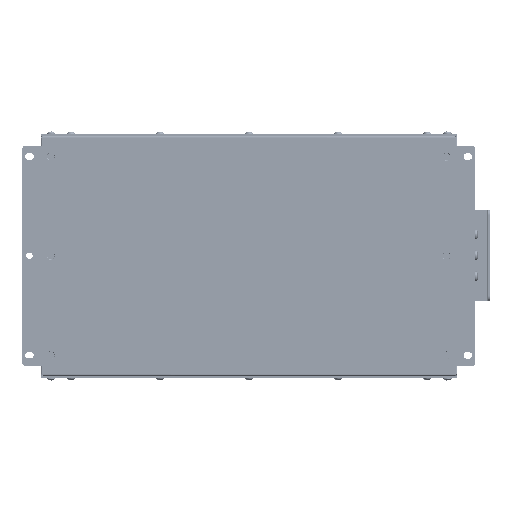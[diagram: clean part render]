
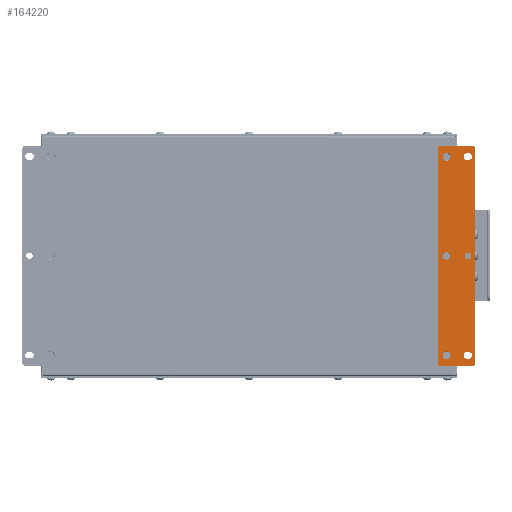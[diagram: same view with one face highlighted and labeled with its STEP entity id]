
A CAD part, front view. The second image highlights one B-rep face of the part: STEP entity #164220.
In plain terms, the highlighted planar face has unit normal (0, -1, 0).
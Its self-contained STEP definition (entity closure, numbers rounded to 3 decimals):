
#5640=FACE_BOUND('',#53948,.T.);
#5641=FACE_BOUND('',#53949,.T.);
#5642=FACE_BOUND('',#53950,.T.);
#5643=FACE_BOUND('',#53951,.T.);
#5644=FACE_BOUND('',#53952,.T.);
#5645=FACE_BOUND('',#53953,.T.);
#6941=PLANE('',#173839);
#12722=LINE('',#230154,#28016);
#12725=LINE('',#230162,#28019);
#12729=LINE('',#230172,#28023);
#12732=LINE('',#230180,#28026);
#12737=LINE('',#230196,#28031);
#12740=LINE('',#230204,#28034);
#12743=LINE('',#230212,#28037);
#12746=LINE('',#230219,#28040);
#28016=VECTOR('',#188682,10.);
#28019=VECTOR('',#188691,10.);
#28023=VECTOR('',#188703,10.);
#28026=VECTOR('',#188712,10.);
#28031=VECTOR('',#188731,10.);
#28034=VECTOR('',#188740,10.);
#28037=VECTOR('',#188749,10.);
#28040=VECTOR('',#188758,10.);
#44896=FACE_OUTER_BOUND('',#53947,.T.);
#53947=EDGE_LOOP('',(#110290,#110291,#110292,#110293,#110294,#110295,#110296,
#110297));
#53948=EDGE_LOOP('',(#110298));
#53949=EDGE_LOOP('',(#110299));
#53950=EDGE_LOOP('',(#110300));
#53951=EDGE_LOOP('',(#110301));
#53952=EDGE_LOOP('',(#110302,#110303,#110304,#110305));
#53953=EDGE_LOOP('',(#110306,#110307,#110308,#110309));
#63902=CIRCLE('',#173759,4.);
#63905=CIRCLE('',#173763,4.);
#63908=CIRCLE('',#173767,4.);
#63944=CIRCLE('',#173814,3.3);
#63945=CIRCLE('',#173817,3.3);
#63946=CIRCLE('',#173821,3.3);
#63947=CIRCLE('',#173824,3.3);
#63948=CIRCLE('',#173826,3.3);
#63949=CIRCLE('',#173828,4.);
#63950=CIRCLE('',#173831,4.);
#63951=CIRCLE('',#173834,4.);
#63952=CIRCLE('',#173837,4.);
#69016=VERTEX_POINT('',#229962);
#69019=VERTEX_POINT('',#229970);
#69022=VERTEX_POINT('',#229978);
#69098=VERTEX_POINT('',#230151);
#69099=VERTEX_POINT('',#230153);
#69100=VERTEX_POINT('',#230157);
#69101=VERTEX_POINT('',#230161);
#69102=VERTEX_POINT('',#230169);
#69103=VERTEX_POINT('',#230171);
#69104=VERTEX_POINT('',#230175);
#69105=VERTEX_POINT('',#230179);
#69106=VERTEX_POINT('',#230185);
#69107=VERTEX_POINT('',#230189);
#69108=VERTEX_POINT('',#230191);
#69109=VERTEX_POINT('',#230195);
#69110=VERTEX_POINT('',#230199);
#69111=VERTEX_POINT('',#230203);
#69112=VERTEX_POINT('',#230207);
#69113=VERTEX_POINT('',#230211);
#69114=VERTEX_POINT('',#230215);
#84948=EDGE_CURVE('',#69016,#69016,#63902,.T.);
#84952=EDGE_CURVE('',#69019,#69019,#63905,.T.);
#84956=EDGE_CURVE('',#69022,#69022,#63908,.T.);
#85044=EDGE_CURVE('',#69099,#69098,#12722,.T.);
#85046=EDGE_CURVE('',#69100,#69099,#63944,.T.);
#85048=EDGE_CURVE('',#69101,#69100,#12725,.T.);
#85050=EDGE_CURVE('',#69098,#69101,#63945,.T.);
#85053=EDGE_CURVE('',#69103,#69102,#12729,.T.);
#85055=EDGE_CURVE('',#69104,#69103,#63946,.T.);
#85057=EDGE_CURVE('',#69105,#69104,#12732,.T.);
#85059=EDGE_CURVE('',#69102,#69105,#63947,.T.);
#85060=EDGE_CURVE('',#69106,#69106,#63948,.T.);
#85063=EDGE_CURVE('',#69108,#69107,#63949,.T.);
#85065=EDGE_CURVE('',#69109,#69108,#12737,.T.);
#85067=EDGE_CURVE('',#69110,#69109,#63950,.T.);
#85069=EDGE_CURVE('',#69111,#69110,#12740,.T.);
#85071=EDGE_CURVE('',#69112,#69111,#63951,.T.);
#85073=EDGE_CURVE('',#69113,#69112,#12743,.T.);
#85075=EDGE_CURVE('',#69114,#69113,#63952,.T.);
#85077=EDGE_CURVE('',#69107,#69114,#12746,.T.);
#110290=ORIENTED_EDGE('',*,*,#85077,.T.);
#110291=ORIENTED_EDGE('',*,*,#85075,.T.);
#110292=ORIENTED_EDGE('',*,*,#85073,.T.);
#110293=ORIENTED_EDGE('',*,*,#85071,.T.);
#110294=ORIENTED_EDGE('',*,*,#85069,.T.);
#110295=ORIENTED_EDGE('',*,*,#85067,.T.);
#110296=ORIENTED_EDGE('',*,*,#85065,.T.);
#110297=ORIENTED_EDGE('',*,*,#85063,.T.);
#110298=ORIENTED_EDGE('',*,*,#84948,.T.);
#110299=ORIENTED_EDGE('',*,*,#84952,.T.);
#110300=ORIENTED_EDGE('',*,*,#84956,.T.);
#110301=ORIENTED_EDGE('',*,*,#85060,.T.);
#110302=ORIENTED_EDGE('',*,*,#85059,.T.);
#110303=ORIENTED_EDGE('',*,*,#85057,.T.);
#110304=ORIENTED_EDGE('',*,*,#85055,.T.);
#110305=ORIENTED_EDGE('',*,*,#85053,.T.);
#110306=ORIENTED_EDGE('',*,*,#85050,.T.);
#110307=ORIENTED_EDGE('',*,*,#85048,.T.);
#110308=ORIENTED_EDGE('',*,*,#85046,.T.);
#110309=ORIENTED_EDGE('',*,*,#85044,.T.);
#164220=ADVANCED_FACE('',(#44896,#5640,#5641,#5642,#5643,#5644,#5645),#6941,
 .T.);
#173759=AXIS2_PLACEMENT_3D('',#229963,#188520,#188521);
#173763=AXIS2_PLACEMENT_3D('',#229971,#188529,#188530);
#173767=AXIS2_PLACEMENT_3D('',#229979,#188538,#188539);
#173814=AXIS2_PLACEMENT_3D('',#230158,#188686,#188687);
#173817=AXIS2_PLACEMENT_3D('',#230165,#188695,#188696);
#173821=AXIS2_PLACEMENT_3D('',#230176,#188707,#188708);
#173824=AXIS2_PLACEMENT_3D('',#230183,#188716,#188717);
#173826=AXIS2_PLACEMENT_3D('',#230186,#188720,#188721);
#173828=AXIS2_PLACEMENT_3D('',#230192,#188726,#188727);
#173831=AXIS2_PLACEMENT_3D('',#230200,#188735,#188736);
#173834=AXIS2_PLACEMENT_3D('',#230208,#188744,#188745);
#173837=AXIS2_PLACEMENT_3D('',#230216,#188753,#188754);
#173839=AXIS2_PLACEMENT_3D('',#230220,#188759,#188760);
#188520=DIRECTION('center_axis',(0.,1.,0.));
#188521=DIRECTION('ref_axis',(0.,0.,
1.));
#188529=DIRECTION('center_axis',(0.,1.,0.));
#188530=DIRECTION('ref_axis',(0.,0.,
1.));
#188538=DIRECTION('center_axis',(0.,1.,0.));
#188539=DIRECTION('ref_axis',(0.,0.,
1.));
#188682=DIRECTION('',(-1.,0.,0.));
#188686=DIRECTION('center_axis',(0.,1.,0.));
#188687=DIRECTION('ref_axis',(0.,0.,
1.));
#188691=DIRECTION('',(1.,0.,0.));
#188695=DIRECTION('center_axis',(0.,1.,0.));
#188696=DIRECTION('ref_axis',(0.,0.,
-1.));
#188703=DIRECTION('',(-1.,0.,0.));
#188707=DIRECTION('center_axis',(0.,1.,0.));
#188708=DIRECTION('ref_axis',(0.,0.,
1.));
#188712=DIRECTION('',(1.,0.,0.));
#188716=DIRECTION('center_axis',(0.,1.,0.));
#188717=DIRECTION('ref_axis',(0.,0.,
-1.));
#188720=DIRECTION('center_axis',(0.,1.,0.));
#188721=DIRECTION('ref_axis',(0.,0.,
1.));
#188726=DIRECTION('center_axis',(0.,-1.,0.));
#188727=DIRECTION('ref_axis',(0.,0.,
-1.));
#188731=DIRECTION('',(1.,0.,0.));
#188735=DIRECTION('center_axis',(0.,-1.,0.));
#188736=DIRECTION('ref_axis',(-1.,0.,0.));
#188740=DIRECTION('',(0.,0.,-1.));
#188744=DIRECTION('center_axis',(0.,-1.,0.));
#188745=DIRECTION('ref_axis',(0.,0.,
1.));
#188749=DIRECTION('',(-1.,0.,0.));
#188753=DIRECTION('center_axis',(0.,-1.,0.));
#188754=DIRECTION('ref_axis',(1.,0.,0.));
#188758=DIRECTION('',(0.,0.,1.));
#188759=DIRECTION('center_axis',(0.,-1.,0.));
#188760=DIRECTION('ref_axis',(1.,0.,0.));
#229962=CARTESIAN_POINT('',(198.605,-71.961,95.973));
#229963=CARTESIAN_POINT('Origin',(198.605,-71.961,99.973));
#229970=CARTESIAN_POINT('',(198.605,-71.961,-4.027));
#229971=CARTESIAN_POINT('Origin',(198.605,-71.961,-0.027));
#229978=CARTESIAN_POINT('',(198.605,-71.961,-104.027));
#229979=CARTESIAN_POINT('Origin',(198.605,-71.961,-100.027));
#230151=CARTESIAN_POINT('',(219.105,-71.961,-103.327));
#230153=CARTESIAN_POINT('',(221.105,-71.961,-103.327));
#230154=CARTESIAN_POINT('',(221.105,-71.961,-103.327));
#230157=CARTESIAN_POINT('',(221.105,-71.961,-96.727));
#230158=CARTESIAN_POINT('Origin',(221.105,-71.961,-100.027));
#230161=CARTESIAN_POINT('',(219.105,-71.961,-96.727));
#230162=CARTESIAN_POINT('',(219.105,-71.961,-96.727));
#230165=CARTESIAN_POINT('Origin',(219.105,-71.961,-100.027));
#230169=CARTESIAN_POINT('',(219.105,-71.961,96.673));
#230171=CARTESIAN_POINT('',(221.105,-71.961,96.673));
#230172=CARTESIAN_POINT('',(221.105,-71.961,96.673));
#230175=CARTESIAN_POINT('',(221.105,-71.961,103.273));
#230176=CARTESIAN_POINT('Origin',(221.105,-71.961,99.973));
#230179=CARTESIAN_POINT('',(219.105,-71.961,103.273));
#230180=CARTESIAN_POINT('',(219.105,-71.961,103.273));
#230183=CARTESIAN_POINT('Origin',(219.105,-71.961,99.973));
#230185=CARTESIAN_POINT('',(220.105,-71.961,-3.327));
#230186=CARTESIAN_POINT('Origin',(220.105,-71.961,-0.027));
#230189=CARTESIAN_POINT('',(227.605,-71.961,-107.027));
#230191=CARTESIAN_POINT('',(223.605,-71.961,-111.027));
#230192=CARTESIAN_POINT('Origin',(223.605,-71.961,-107.027));
#230195=CARTESIAN_POINT('',(193.605,-71.961,-111.027));
#230196=CARTESIAN_POINT('',(193.605,-71.961,-111.027));
#230199=CARTESIAN_POINT('',(189.605,-71.961,-107.027));
#230200=CARTESIAN_POINT('Origin',(193.605,-71.961,-107.027));
#230203=CARTESIAN_POINT('',(189.605,-71.961,106.973));
#230204=CARTESIAN_POINT('',(189.605,-71.961,106.973));
#230207=CARTESIAN_POINT('',(193.605,-71.961,110.973));
#230208=CARTESIAN_POINT('Origin',(193.605,-71.961,106.973));
#230211=CARTESIAN_POINT('',(223.605,-71.961,110.973));
#230212=CARTESIAN_POINT('',(223.605,-71.961,110.973));
#230215=CARTESIAN_POINT('',(227.605,-71.961,106.973));
#230216=CARTESIAN_POINT('Origin',(223.605,-71.961,106.973));
#230219=CARTESIAN_POINT('',(227.605,-71.961,-107.027));
#230220=CARTESIAN_POINT('Origin',(208.605,-71.961,-0.027));
